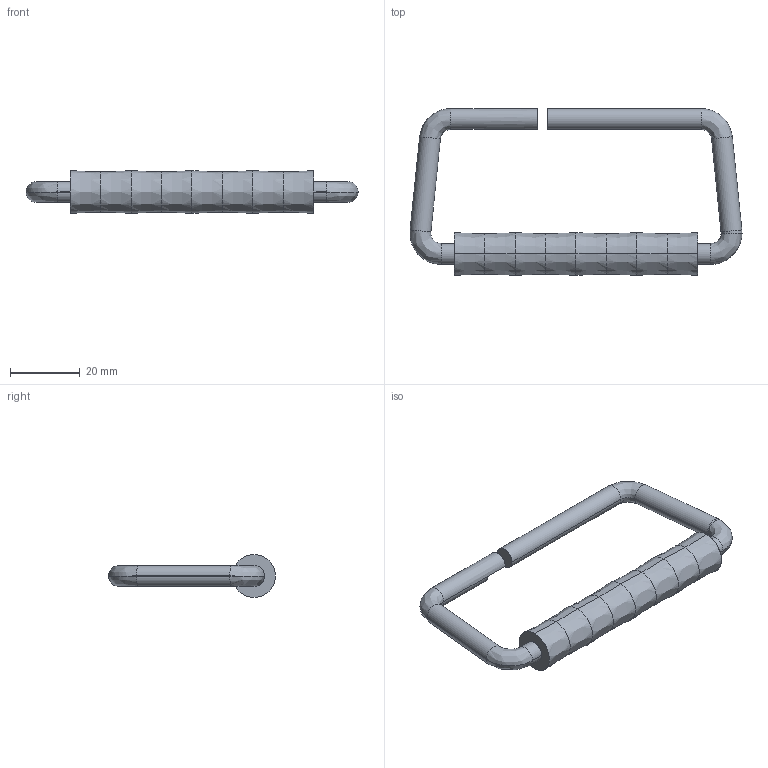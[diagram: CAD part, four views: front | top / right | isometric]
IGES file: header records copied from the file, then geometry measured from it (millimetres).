
Start section: SolidWorks IGES FILE using analytic representation for surfaces
Global section: file name: C:\Documents and Settings\lecoutey\Bureau\PO 304\304.030.00.IGS; native system: SolidWorks 2004 by SolidWorks Corporation; preprocessor: Version 5.3; author: lecoutey; date: 050408.134925; units: millimetre
Bounding box: 95.48 x 47.95 x 12.3 mm (x, y, z)
Surface area: 6006.6 mm2 (no closed solid volume)
Topology: 0 solids, 0 shells, 44 faces, 352 edges, 352 vertices
Faces by surface type: bspline 32, revolution 12
